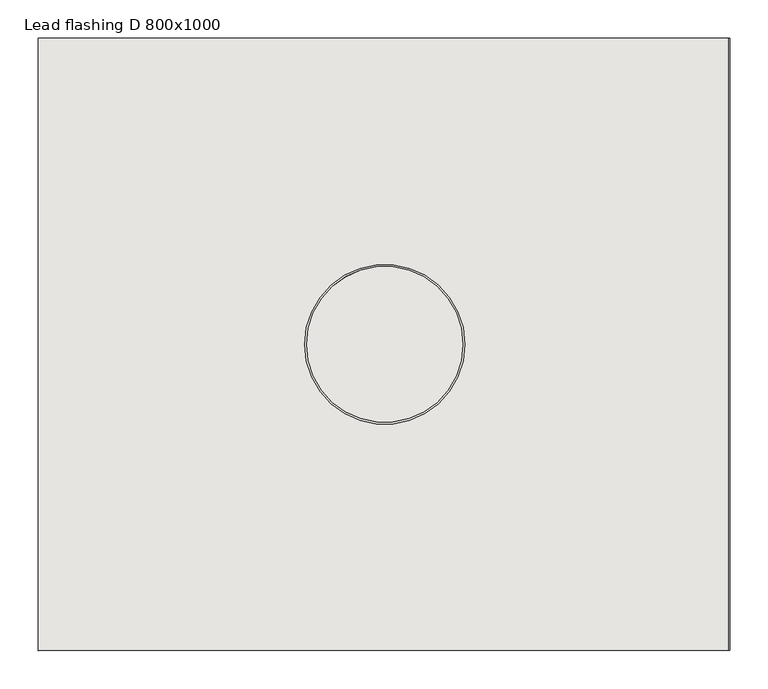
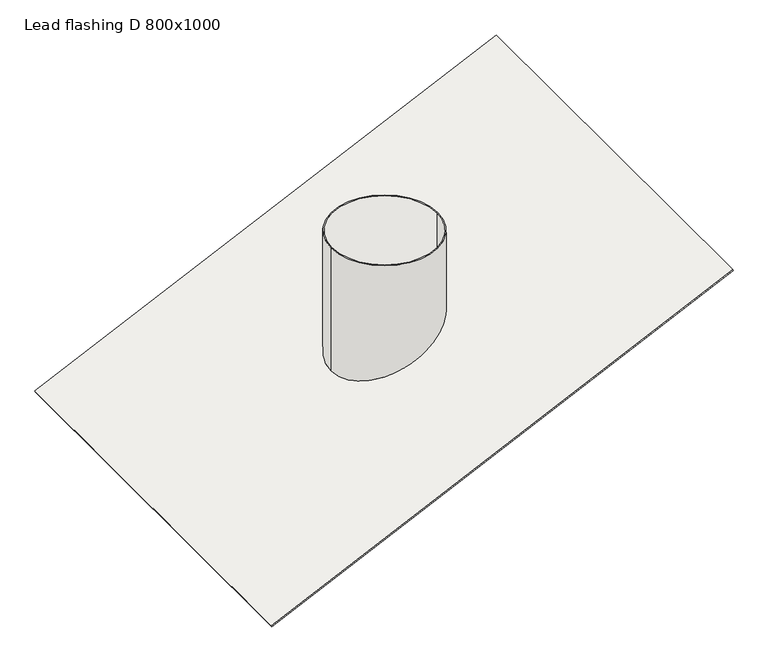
"""IFC4 building model written with IfcOpenShell, lengths in millimetres: covering geometry, NLRS_57_GM_WPB_weather slate steep roof_M&G : Lead flashing D 800x1000."""

from ifc_helpers import new_model, si_unit, frame, origin, place, context, project, spatial, polyline, circle_curve, ellipse_curve, source, transform, mapped, element, save
from ifc_brep_helpers import plane_surface, cylinder_surface, revolved_surface, advanced_brep


def lead_flashing_d_800x1000_a7e0aa68(model_context):
    return source(origin(), model_context, "Body", "AdvancedBrep", [
        advanced_brep(
        [(450.4349702, -400.0, 210.0412761), (449.3784245, -400.0, 212.3070456), (-452.3978236, -400.0, -208.1981249), (-451.3412779, -400.0, -210.4638943), (450.4349702, 400.0, 210.0412761), (-451.3412779, 400.0, -210.4638943), (-452.3978236, 400.0, -208.1981249), (449.3784245, 400.0, 212.3070456), (104.5, 0.0, 51.4875951), (-104.5, 0.0, -45.9707055), (102.0, 0.0, 50.3218259), (-102.0, 0.0, -44.8049363), (-104.5, 0.0, 208.450791), (104.5, 0.0, 208.450791), (-102.0, 0.0, 208.450791), (102.0, 0.0, 208.450791)],
        [
            (0, 1),
            (1, 2),
            (2, 3),
            (3, 0),
            (4, 5),
            (5, 6),
            (6, 7),
            (7, 4),
            (0, 4),
            (7, 1),
            (6, 2),
            (8, 9, ellipse_curve(frame((0.0, 0.0, 2.7584448), z_axis=(0.42261826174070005, 0.0, -0.9063077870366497), x_axis=(0.9063077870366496, 0.0, 0.42261826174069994)), 115.3029925, 104.5)),
            (9, 8, ellipse_curve(frame((0.0, 0.0, 2.7584448), z_axis=(0.42261826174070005, 0.0, -0.9063077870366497), x_axis=(0.9063077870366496, 0.0, 0.42261826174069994)), 115.3029925, 104.5)),
            (10, 11, ellipse_curve(frame((0.0, 0.0, 2.7584448), z_axis=(-0.42261826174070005, 0.0, 0.9063077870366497), x_axis=(-0.9063077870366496, 0.0, -0.42261826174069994)), 112.5445477, 102.0)),
            (11, 10, ellipse_curve(frame((0.0, 0.0, 2.7584448), z_axis=(-0.42261826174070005, 0.0, 0.9063077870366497), x_axis=(-0.9063077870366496, 0.0, -0.42261826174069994)), 112.5445477, 102.0)),
            (5, 3),
            (12, 13, circle_curve(frame((0.0, 0.0, 208.450791), z_axis=(0.0, 0.0, 1.0), x_axis=(1.0, 0.0, 0.0)), 104.5)),
            (13, 12, circle_curve(frame((0.0, 0.0, 208.450791), z_axis=(0.0, 0.0, 1.0), x_axis=(1.0, 0.0, 0.0)), 104.5)),
            (14, 15, circle_curve(frame((0.0, 0.0, 208.450791), z_axis=(0.0, 0.0, -1.0), x_axis=(1.0, 0.0, 0.0)), 102.0)),
            (15, 14, circle_curve(frame((0.0, 0.0, 208.450791), z_axis=(0.0, 0.0, -1.0), x_axis=(1.0, 0.0, 0.0)), 102.0)),
            (12, 9),
            (8, 13),
            (14, 11),
            (10, 15),
        ],
        [
            plane_surface(frame((450.4349702, -400.0, 210.0412761), z_axis=(0.0, -1.0000000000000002, 0.0), x_axis=(-0.4226182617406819, 0.0, 0.9063077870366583))),
            plane_surface(frame((450.4349702, 400.0, 210.0412761), z_axis=(0.0, 1.0000000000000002, 0.0), x_axis=(0.4226182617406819, 0.0, -0.9063077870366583))),
            plane_surface(frame((450.4349702, -400.0, 210.0412761), z_axis=(0.9063077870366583, 0.0, 0.4226182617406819), x_axis=(0.0, 1.0, 0.0))),
            plane_surface(frame((449.3784245, -400.0, 212.3070456), z_axis=(-0.42261826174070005, 0.0, 0.9063077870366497), x_axis=(0.0, 1.0, 0.0))),
            plane_surface(frame((-452.3978236, -400.0, -208.1981249), z_axis=(-0.9063077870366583, 0.0, -0.4226182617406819), x_axis=(0.0, 1.0, 0.0))),
            plane_surface(frame((104.5, 0.0, 208.450791), z_axis=(0.0, 0.0, 1.0), x_axis=(0.0, 1.0, 0.0))),
            cylinder_surface(frame((0.0, 0.0, -48.7291503), z_axis=(0.0, 0.0, 1.0), x_axis=(1.0, 0.0, 0.0)), 104.5),
            revolved_surface(polyline([(102.0, 0.0, -44.804936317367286), (102.0, 0.0, 208.450791)]), (0.0, 0.0, 0.0), (0.0, 0.0, -1.0)),
            plane_surface(frame((104.5, -400.0, 48.7291503), z_axis=(0.4226182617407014, 0.0, -0.9063077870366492), x_axis=(0.0, 1.0, 0.0))),
        ],
        [
            (0, [[1, 2, 3, 4]]),
            (1, [[5, 6, 7, 8]]),
            (2, [[-1, 9, -8, 10]]),
            (3, [[-2, -10, -7, 11], [12, 13]]),
            (3, [[14, 15]]),
            (4, [[-3, -11, -6, 16]]),
            (5, [[17, 18], [19, 20]]),
            (6, [[-17, 21, -12, 22]]),
            (6, [[-18, -22, -13, -21]]),
            (7, [[-19, 23, -14, 24]]),
            (7, [[-20, -24, -15, -23]]),
            (8, [[-4, -16, -5, -9]]),
        ],
    ),
    ])


if __name__ == "__main__":
    model = new_model("IFC4")
    model_context = context("Model", 3, world=origin())
    ifc_project = project(units=[si_unit("LENGTHUNIT", "METRE", prefix="MILLI")], contexts=[model_context])
    site = spatial("IfcSite", under=ifc_project)
    building = spatial("IfcBuilding", under=site)
    placement = place(None, origin())
    lead_flashing_d_800x1000_shape = lead_flashing_d_800x1000_a7e0aa68(model_context)
    element("IfcCovering", 1, ObjectType="NLRS_57_GM_WPB_weather slate steep roof_M&G : Lead flashing D 800x1000", at=placement, inside=building, context=model_context, shape_type="MappedRepresentation", body=[
        mapped(lead_flashing_d_800x1000_shape, transform((0.0, 0.0, 0.0), x_axis=(1.0, 0.0, 0.0), y_axis=(0.0, 1.0, 0.0), z_axis=(0.0, 0.0, 1.0))),
    ])
    save(model, "model.ifc")
